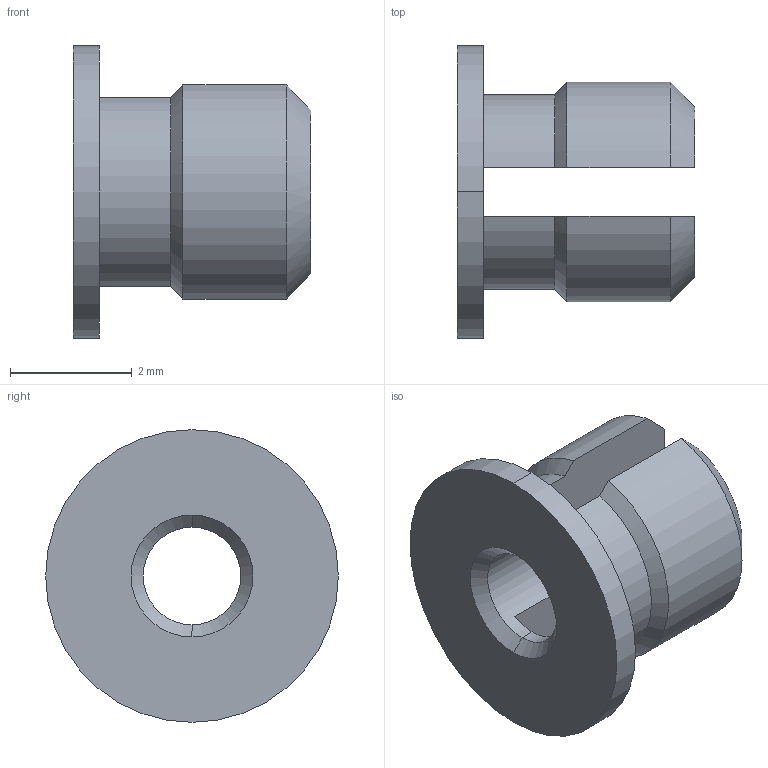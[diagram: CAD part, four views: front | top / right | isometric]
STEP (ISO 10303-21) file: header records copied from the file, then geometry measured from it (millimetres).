
FILE_DESCRIPTION (( 'STEP AP203' ), '1' );
FILE_NAME ('FSUK-EXPH-M02-S.STEP', '2021-04-15T14:52:01', ( '' ), ( '' ), 'SwSTEP 2.0', 'SolidWorks 2021', '' );
FILE_SCHEMA (( 'CONFIG_CONTROL_DESIGN' ));
Length unit declared in the file: millimetre
Products named in the file (1): FSUK-EXPH-M02-S
Bounding box: 3.9 x 4.8 x 4.8 mm (x, y, z)
Volume: 26.4 mm3; surface area: 97 mm2
Topology: 1 solids, 1 shells, 24 faces, 64 edges, 42 vertices
Faces by surface type: cylinder 8, cone 8, plane 8
Entity records: 851 total; most frequent: CARTESIAN_POINT 167, DIRECTION 128, ORIENTED_EDGE 128, EDGE_CURVE 64, AXIS2_PLACEMENT_3D 51, VERTEX_POINT 42, LINE 26, VECTOR 26
